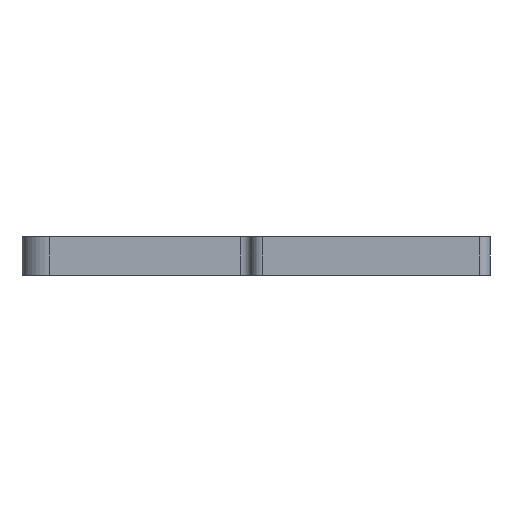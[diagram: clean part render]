
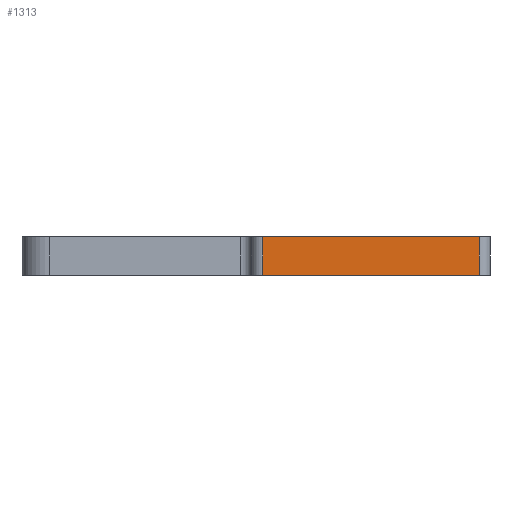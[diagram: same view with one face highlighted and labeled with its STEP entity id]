
A CAD part, left-side view. The second image highlights one B-rep face of the part: STEP entity #1313.
In plain terms, the highlighted planar face has unit normal (-1, 0, 0).
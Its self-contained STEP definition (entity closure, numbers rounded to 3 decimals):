
#283 = ORIENTED_EDGE ( 'NONE', *, *, #1187, .F. ) ;
#289 = ORIENTED_EDGE ( 'NONE', *, *, #1081, .F. ) ;
#339 = ORIENTED_EDGE ( 'NONE', *, *, #1190, .T. ) ;
#355 = ORIENTED_EDGE ( 'NONE', *, *, #1160, .T. ) ;
#383 = EDGE_LOOP ( 'NONE', ( #355, #283, #289, #339 ) ) ;
#567 = LINE ( 'NONE', #2198, #579 ) ;
#579 = VECTOR ( 'NONE', #2195, 1000. ) ;
#686 = VECTOR ( 'NONE', #1434, 1000. ) ;
#691 = LINE ( 'NONE', #1463, #686 ) ;
#716 = LINE ( 'NONE', #1564, #771 ) ;
#733 = LINE ( 'NONE', #1554, #773 ) ;
#771 = VECTOR ( 'NONE', #1559, 1000. ) ;
#773 = VECTOR ( 'NONE', #1557, 1000. ) ;
#855 = FACE_OUTER_BOUND ( 'NONE', #383, .T. ) ;
#986 = AXIS2_PLACEMENT_3D ( 'NONE', #1692, #1703, #1693 ) ;
#1081 = EDGE_CURVE ( 'NONE', #2076, #2044, #567, .T. ) ;
#1160 = EDGE_CURVE ( 'NONE', #1935, #1951, #691, .T. ) ;
#1187 = EDGE_CURVE ( 'NONE', #2044, #1951, #716, .T. ) ;
#1190 = EDGE_CURVE ( 'NONE', #2076, #1935, #733, .T. ) ;
#1313 = ADVANCED_FACE ( 'NONE', ( #855 ), #1670, .F. ) ;
#1434 = DIRECTION ( 'NONE',  ( 0., -1., 0. ) ) ;
#1463 = CARTESIAN_POINT ( 'NONE',  ( -66.5, 3., 0. ) ) ;
#1554 = CARTESIAN_POINT ( 'NONE',  ( -66.5, 3., 7. ) ) ;
#1557 = DIRECTION ( 'NONE',  ( 0., 0., -1. ) ) ;
#1559 = DIRECTION ( 'NONE',  ( 0., 0., -1. ) ) ;
#1564 = CARTESIAN_POINT ( 'NONE',  ( -66.5, -36.5, 7. ) ) ;
#1670 = PLANE ( 'NONE',  #986 ) ;
#1692 = CARTESIAN_POINT ( 'NONE',  ( -66.5, 3., 7. ) ) ;
#1693 = DIRECTION ( 'NONE',  ( 0., 0., -1. ) ) ;
#1703 = DIRECTION ( 'NONE',  ( 1., 0., 0. ) ) ;
#1763 = CARTESIAN_POINT ( 'NONE',  ( -66.5, 3., 0. ) ) ;
#1792 = CARTESIAN_POINT ( 'NONE',  ( -66.5, -36.5, 0. ) ) ;
#1908 = CARTESIAN_POINT ( 'NONE',  ( -66.5, -36.5, 7. ) ) ;
#1909 = CARTESIAN_POINT ( 'NONE',  ( -66.5, 3., 7. ) ) ;
#1935 = VERTEX_POINT ( 'NONE', #1763 ) ;
#1951 = VERTEX_POINT ( 'NONE', #1792 ) ;
#2044 = VERTEX_POINT ( 'NONE', #1908 ) ;
#2076 = VERTEX_POINT ( 'NONE', #1909 ) ;
#2195 = DIRECTION ( 'NONE',  ( 0., -1., 0. ) ) ;
#2198 = CARTESIAN_POINT ( 'NONE',  ( -66.5, 3., 7. ) ) ;
